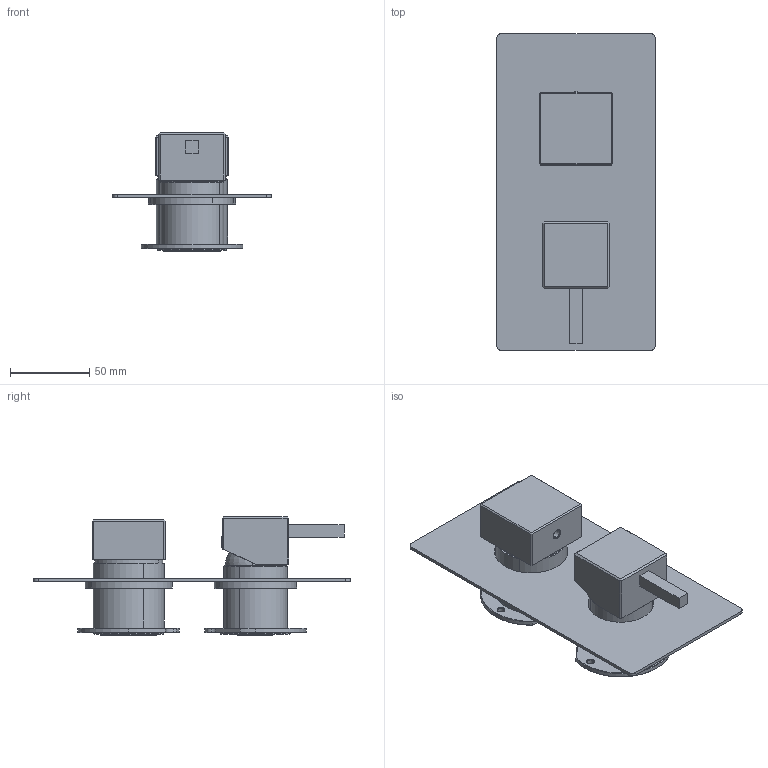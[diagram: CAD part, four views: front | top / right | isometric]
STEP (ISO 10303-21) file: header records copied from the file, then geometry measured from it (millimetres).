
FILE_DESCRIPTION (( 'STEP AP203' ), '1' );
FILE_NAME ('EM43.STEP', '2024-01-09T16:19:16', ( '' ), ( '' ), 'SwSTEP 2.0', 'SolidWorks 2023', '' );
FILE_SCHEMA (( 'CONFIG_CONTROL_DESIGN' ));
Length unit declared in the file: millimetre
Products named in the file (26): EM43; C11.14.0009; C24.2019.00.0; C31.00.0006.01; C24.1831.00.0; EU0110_1; C25.2056.00.0; C10.00.0015; C11.14.0007; C12.00.0057; C24.1967.00.0; C47.00.0015; C24.1836.00.1; C12.00.0058; C24.1837.00.0; C24.2018.00.0; C10.00.0005; C25.2694.00; C47.00.0023.01; AS809_00; C47.00.0016; C25.2055.00.0; AS747_00; AS808_00; C24.1830.00.0; AS1080
Assembly tree (25 placements, depth 3):
  EM43
    AS1080
      C25.2694.00
      C25.2055.00.0
      C25.2056.00.0
    AS808_00
      C24.1831.00.0
      C24.1836.00.1
      C10.00.0005
      C47.00.0016
      C24.1967.00.0
      C12.00.0058
      C24.2018.00.0
    AS747_00
      C47.00.0015
      C10.00.0015
      C24.1830.00.0
      C12.00.0057
      C24.1837.00.0
      C31.00.0006.01
    AS809_00
      C24.2019.00.0
      EU0110_1
      C11.14.0007
      C11.14.0009
      C47.00.0023.01
Bounding box: 100 x 200 x 75 mm (x, y, z)
Volume: 222182.1 mm3; surface area: 141422.2 mm2
Topology: 23 solids, 23 shells, 980 faces, 2303 edges, 1418 vertices
Faces by surface type: cylinder 388, plane 290, cone 169, bspline 115, torus 18
Entity records: 33879 total; most frequent: CARTESIAN_POINT 8563, DIRECTION 4982, ORIENTED_EDGE 4578, EDGE_CURVE 2289, AXIS2_PLACEMENT_3D 1991, VERTEX_POINT 1418, EDGE_LOOP 1125, CIRCLE 1094
